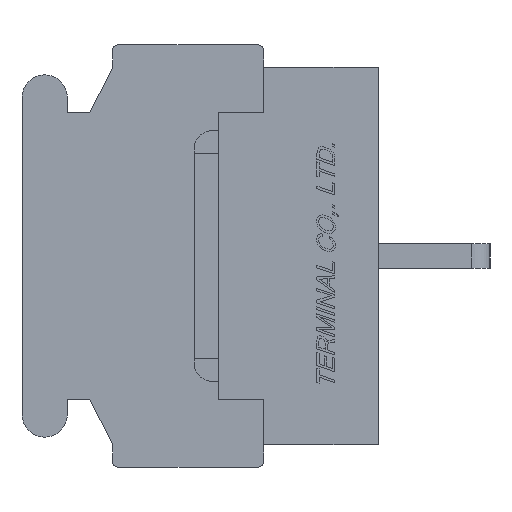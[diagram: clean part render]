
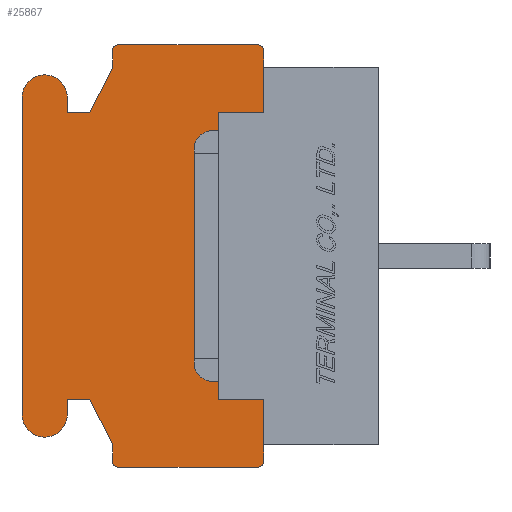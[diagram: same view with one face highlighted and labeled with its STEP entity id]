
A CAD part, left-side view. The second image highlights one B-rep face of the part: STEP entity #25867.
In plain terms, the highlighted planar face has unit normal (-1, 0, 0).
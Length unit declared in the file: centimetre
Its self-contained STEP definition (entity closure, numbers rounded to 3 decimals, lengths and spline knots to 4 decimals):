
#997=PLANE('',#42143);
#2290=VECTOR('',#27964,1.);
#2685=VECTOR('',#28492,1.);
#2688=VECTOR('',#28496,1.);
#2690=VECTOR('',#28499,1.);
#2691=VECTOR('',#28501,1.);
#2692=VECTOR('',#28503,1.);
#2693=VECTOR('',#28506,1.);
#2694=VECTOR('',#28509,1.);
#2695=VECTOR('',#28510,1.);
#2696=VECTOR('',#28511,1.);
#2697=VECTOR('',#28512,1.);
#2698=VECTOR('',#28515,1.);
#2699=VECTOR('',#28518,1.);
#2700=VECTOR('',#28519,1.);
#2701=VECTOR('',#28520,1.);
#2702=VECTOR('',#28521,1.);
#2703=VECTOR('',#28524,1.);
#2704=VECTOR('',#28527,1.);
#5148=LINE('',#34626,#2290);
#5543=LINE('',#36111,#2685);
#5546=LINE('',#36117,#2688);
#5548=LINE('',#36121,#2690);
#5549=LINE('',#36123,#2691);
#5550=LINE('',#36125,#2692);
#5551=LINE('',#36129,#2693);
#5552=LINE('',#36133,#2694);
#5553=LINE('',#36135,#2695);
#5554=LINE('',#36137,#2696);
#5555=LINE('',#36139,#2697);
#5556=LINE('',#36143,#2698);
#5557=LINE('',#36147,#2699);
#5558=LINE('',#36149,#2700);
#5559=LINE('',#36151,#2701);
#5560=LINE('',#36153,#2702);
#5561=LINE('',#36157,#2703);
#5562=LINE('',#36161,#2704);
#7945=VERTEX_POINT('',#34625);
#7946=VERTEX_POINT('',#34627);
#8280=VERTEX_POINT('',#36110);
#8281=VERTEX_POINT('',#36112);
#8282=VERTEX_POINT('',#36116);
#8283=VERTEX_POINT('',#36118);
#8284=VERTEX_POINT('',#36126);
#8285=VERTEX_POINT('',#36128);
#8286=VERTEX_POINT('',#36130);
#8287=VERTEX_POINT('',#36132);
#8288=VERTEX_POINT('',#36134);
#8289=VERTEX_POINT('',#36136);
#8290=VERTEX_POINT('',#36138);
#8291=VERTEX_POINT('',#36140);
#8292=VERTEX_POINT('',#36142);
#8293=VERTEX_POINT('',#36144);
#8294=VERTEX_POINT('',#36146);
#8295=VERTEX_POINT('',#36148);
#8296=VERTEX_POINT('',#36150);
#8297=VERTEX_POINT('',#36152);
#8298=VERTEX_POINT('',#36154);
#8299=VERTEX_POINT('',#36156);
#8300=VERTEX_POINT('',#36158);
#8301=VERTEX_POINT('',#36160);
#10048=CIRCLE('',#42144,0.02);
#10049=CIRCLE('',#42145,0.02);
#10050=CIRCLE('',#42146,0.075);
#10051=CIRCLE('',#42147,0.075);
#10052=CIRCLE('',#42148,0.02);
#10053=CIRCLE('',#42149,0.02);
#11319=EDGE_CURVE('',#7946,#7945,#5148,.T.);
#11820=EDGE_CURVE('',#8281,#8280,#5543,.T.);
#11823=EDGE_CURVE('',#8283,#8282,#5546,.T.);
#11825=EDGE_CURVE('',#8282,#7946,#5548,.T.);
#11826=EDGE_CURVE('',#7945,#8281,#5549,.T.);
#11827=EDGE_CURVE('',#8284,#8280,#5550,.T.);
#11828=EDGE_CURVE('',#8285,#8284,#10048,.T.);
#11829=EDGE_CURVE('',#8286,#8285,#5551,.T.);
#11830=EDGE_CURVE('',#8287,#8286,#10049,.T.);
#11831=EDGE_CURVE('',#8288,#8287,#5552,.T.);
#11832=EDGE_CURVE('',#8289,#8288,#5553,.T.);
#11833=EDGE_CURVE('',#8290,#8289,#5554,.T.);
#11834=EDGE_CURVE('',#8291,#8290,#5555,.T.);
#11835=EDGE_CURVE('',#8292,#8291,#10050,.T.);
#11836=EDGE_CURVE('',#8293,#8292,#5556,.T.);
#11837=EDGE_CURVE('',#8294,#8293,#10051,.T.);
#11838=EDGE_CURVE('',#8295,#8294,#5557,.T.);
#11839=EDGE_CURVE('',#8296,#8295,#5558,.T.);
#11840=EDGE_CURVE('',#8297,#8296,#5559,.T.);
#11841=EDGE_CURVE('',#8298,#8297,#5560,.T.);
#11842=EDGE_CURVE('',#8299,#8298,#10052,.T.);
#11843=EDGE_CURVE('',#8300,#8299,#5561,.T.);
#11844=EDGE_CURVE('',#8301,#8300,#10053,.T.);
#11845=EDGE_CURVE('',#8283,#8301,#5562,.T.);
#17004=ORIENTED_EDGE('',*,*,#11823,.T.);
#17005=ORIENTED_EDGE('',*,*,#11825,.T.);
#17006=ORIENTED_EDGE('',*,*,#11319,.T.);
#17007=ORIENTED_EDGE('',*,*,#11826,.T.);
#17008=ORIENTED_EDGE('',*,*,#11820,.T.);
#17009=ORIENTED_EDGE('',*,*,#11827,.F.);
#17010=ORIENTED_EDGE('',*,*,#11828,.F.);
#17011=ORIENTED_EDGE('',*,*,#11829,.F.);
#17012=ORIENTED_EDGE('',*,*,#11830,.F.);
#17013=ORIENTED_EDGE('',*,*,#11831,.F.);
#17014=ORIENTED_EDGE('',*,*,#11832,.F.);
#17015=ORIENTED_EDGE('',*,*,#11833,.F.);
#17016=ORIENTED_EDGE('',*,*,#11834,.F.);
#17017=ORIENTED_EDGE('',*,*,#11835,.F.);
#17018=ORIENTED_EDGE('',*,*,#11836,.F.);
#17019=ORIENTED_EDGE('',*,*,#11837,.F.);
#17020=ORIENTED_EDGE('',*,*,#11838,.F.);
#17021=ORIENTED_EDGE('',*,*,#11839,.F.);
#17022=ORIENTED_EDGE('',*,*,#11840,.F.);
#17023=ORIENTED_EDGE('',*,*,#11841,.F.);
#17024=ORIENTED_EDGE('',*,*,#11842,.F.);
#17025=ORIENTED_EDGE('',*,*,#11843,.F.);
#17026=ORIENTED_EDGE('',*,*,#11844,.F.);
#17027=ORIENTED_EDGE('',*,*,#11845,.F.);
#22779=EDGE_LOOP('',(#17004,#17005,#17006,#17007,#17008,#17009,#17010,#17011,
#17012,#17013,#17014,#17015,#17016,#17017,#17018,#17019,#17020,#17021,#17022,
#17023,#17024,#17025,#17026,#17027));
#24349=FACE_BOUND('',#22779,.T.);
#25867=ADVANCED_FACE('',(#24349),#997,.F.);
#27964=DIRECTION('',(0.,0.,1.));
#28492=DIRECTION('',(0.,0.,1.));
#28496=DIRECTION('',(0.,0.,1.));
#28499=DIRECTION('',(0.,1.,0.));
#28501=DIRECTION('',(0.,-1.,0.));
#28502=DIRECTION('',(1.,0.,0.));
#28503=DIRECTION('',(0.,0.,-1.));
#28504=DIRECTION('',(1.,0.,0.));
#28505=DIRECTION('',(0.,0.,-0.02));
#28506=DIRECTION('',(0.,-1.,0.));
#28507=DIRECTION('',(1.,0.,0.));
#28508=DIRECTION('',(0.,0.,-0.02));
#28509=DIRECTION('',(0.,0.,1.));
#28510=DIRECTION('',(0.,-0.447,0.894));
#28511=DIRECTION('',(0.,-1.,0.));
#28512=DIRECTION('',(0.,0.,-1.));
#28513=DIRECTION('',(1.,0.,0.));
#28514=DIRECTION('',(0.,0.,-0.075));
#28515=DIRECTION('',(0.,0.,1.));
#28516=DIRECTION('',(1.,0.,0.));
#28517=DIRECTION('',(0.,0.,-0.075));
#28518=DIRECTION('',(0.,0.,-1.));
#28519=DIRECTION('',(0.,1.,0.));
#28520=DIRECTION('',(0.,0.447,0.894));
#28521=DIRECTION('',(0.,0.,1.));
#28522=DIRECTION('',(1.,0.,0.));
#28523=DIRECTION('',(0.,0.,-0.02));
#28524=DIRECTION('',(0.,1.,0.));
#28525=DIRECTION('',(1.,0.,0.));
#28526=DIRECTION('',(0.,0.,-0.02));
#28527=DIRECTION('',(0.,0.,-1.));
#34625=CARTESIAN_POINT('',(-0.762,0.53,0.475));
#34626=CARTESIAN_POINT('',(-0.762,0.53,0.));
#34627=CARTESIAN_POINT('',(-0.762,0.53,-0.475));
#36110=CARTESIAN_POINT('',(-0.762,0.38,0.625));
#36111=CARTESIAN_POINT('',(-0.762,0.38,0.275));
#36112=CARTESIAN_POINT('',(-0.762,0.38,0.475));
#36116=CARTESIAN_POINT('',(-0.762,0.38,-0.475));
#36117=CARTESIAN_POINT('',(-0.762,0.38,-0.275));
#36118=CARTESIAN_POINT('',(-0.762,0.38,-0.625));
#36121=CARTESIAN_POINT('',(-0.762,0.5304,-0.475));
#36123=CARTESIAN_POINT('',(-0.762,0.5304,0.475));
#36124=CARTESIAN_POINT('',(-0.762,0.6059,0.));
#36125=CARTESIAN_POINT('',(-0.762,0.38,0.68));
#36126=CARTESIAN_POINT('',(-0.762,0.38,0.68));
#36127=CARTESIAN_POINT('',(-0.762,0.4,0.68));
#36128=CARTESIAN_POINT('',(-0.762,0.4,0.7));
#36129=CARTESIAN_POINT('',(-0.762,0.86,0.7));
#36130=CARTESIAN_POINT('',(-0.762,0.86,0.7));
#36131=CARTESIAN_POINT('',(-0.762,0.86,0.68));
#36132=CARTESIAN_POINT('',(-0.762,0.88,0.68));
#36133=CARTESIAN_POINT('',(-0.762,0.88,0.625));
#36134=CARTESIAN_POINT('',(-0.762,0.88,0.625));
#36135=CARTESIAN_POINT('',(-0.762,0.955,0.475));
#36136=CARTESIAN_POINT('',(-0.762,0.955,0.475));
#36137=CARTESIAN_POINT('',(-0.762,1.03,0.475));
#36138=CARTESIAN_POINT('',(-0.762,1.03,0.475));
#36139=CARTESIAN_POINT('',(-0.762,1.03,0.525));
#36140=CARTESIAN_POINT('',(-0.762,1.03,0.525));
#36141=CARTESIAN_POINT('',(-0.762,1.105,0.525));
#36142=CARTESIAN_POINT('',(-0.762,1.18,0.525));
#36143=CARTESIAN_POINT('',(-0.762,1.18,-0.525));
#36144=CARTESIAN_POINT('',(-0.762,1.18,-0.525));
#36145=CARTESIAN_POINT('',(-0.762,1.105,-0.525));
#36146=CARTESIAN_POINT('',(-0.762,1.03,-0.525));
#36147=CARTESIAN_POINT('',(-0.762,1.03,-0.475));
#36148=CARTESIAN_POINT('',(-0.762,1.03,-0.475));
#36149=CARTESIAN_POINT('',(-0.762,0.955,-0.475));
#36150=CARTESIAN_POINT('',(-0.762,0.955,-0.475));
#36151=CARTESIAN_POINT('',(-0.762,0.88,-0.625));
#36152=CARTESIAN_POINT('',(-0.762,0.88,-0.625));
#36153=CARTESIAN_POINT('',(-0.762,0.88,-0.68));
#36154=CARTESIAN_POINT('',(-0.762,0.88,-0.68));
#36155=CARTESIAN_POINT('',(-0.762,0.86,-0.68));
#36156=CARTESIAN_POINT('',(-0.762,0.86,-0.7));
#36157=CARTESIAN_POINT('',(-0.762,0.4,-0.7));
#36158=CARTESIAN_POINT('',(-0.762,0.4,-0.7));
#36159=CARTESIAN_POINT('',(-0.762,0.4,-0.68));
#36160=CARTESIAN_POINT('',(-0.762,0.38,-0.68));
#36161=CARTESIAN_POINT('',(-0.762,0.38,-0.625));
#42143=AXIS2_PLACEMENT_3D('',#36124,#28502,$);
#42144=AXIS2_PLACEMENT_3D('',#36127,#28504,#28505);
#42145=AXIS2_PLACEMENT_3D('',#36131,#28507,#28508);
#42146=AXIS2_PLACEMENT_3D('',#36141,#28513,#28514);
#42147=AXIS2_PLACEMENT_3D('',#36145,#28516,#28517);
#42148=AXIS2_PLACEMENT_3D('',#36155,#28522,#28523);
#42149=AXIS2_PLACEMENT_3D('',#36159,#28525,#28526);
